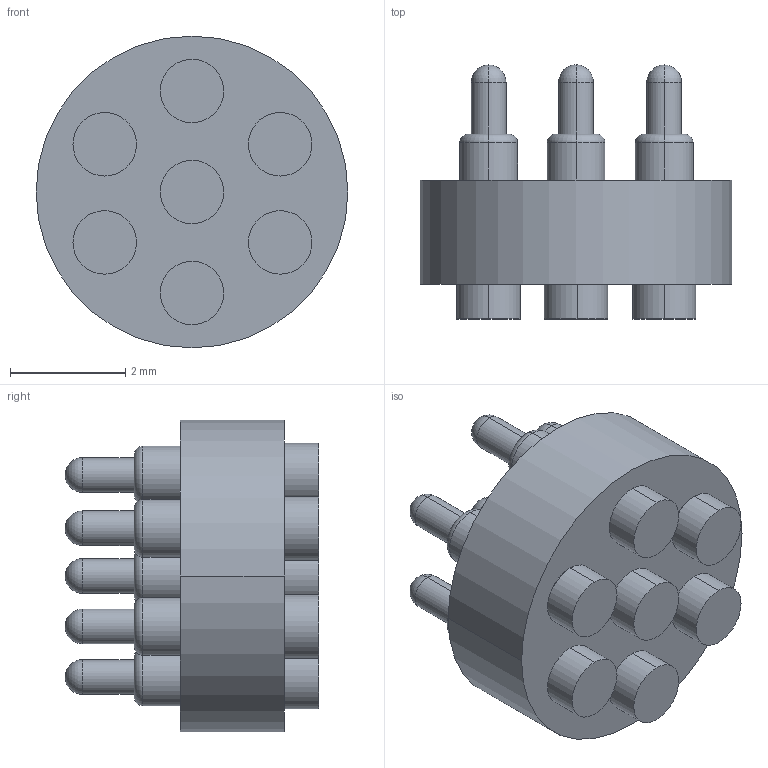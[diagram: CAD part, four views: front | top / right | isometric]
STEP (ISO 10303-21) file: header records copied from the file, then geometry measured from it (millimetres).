
FILE_DESCRIPTION((''),'2;1');
FILE_NAME('ASM0004_ASM','2023-06-08T09:20:41',('USER'),(''),'CREO PARAMETRIC BY PTC INC, 2020154','CREO PARAMETRIC BY PTC INC, 2020154','');
FILE_SCHEMA(('CONFIG_CONTROL_DESIGN'));
Length unit declared in the file: millimetre
Products named in the file (3): H3167-07175A; PRT0004; ASM0004_ASM
Assembly tree (9 placements, depth 2):
  ASM0004_ASM
    H3167-07175A
    PRT0004  x8
Bounding box: 5.4 x 4.4 x 5.4 mm (x, y, z)
Volume: 54.7 mm3; surface area: 216.9 mm2
Topology: 9 solids, 9 shells, 178 faces, 368 edges, 216 vertices
Faces by surface type: cylinder 96, plane 34, cone 16, torus 16, sphere 16
Entity records: 1264 total; most frequent: DIRECTION 244, CARTESIAN_POINT 191, ORIENTED_EDGE 172, AXIS2_PLACEMENT_3D 108, EDGE_CURVE 86, CIRCLE 58, VERTEX_POINT 55, EDGE_LOOP 55
